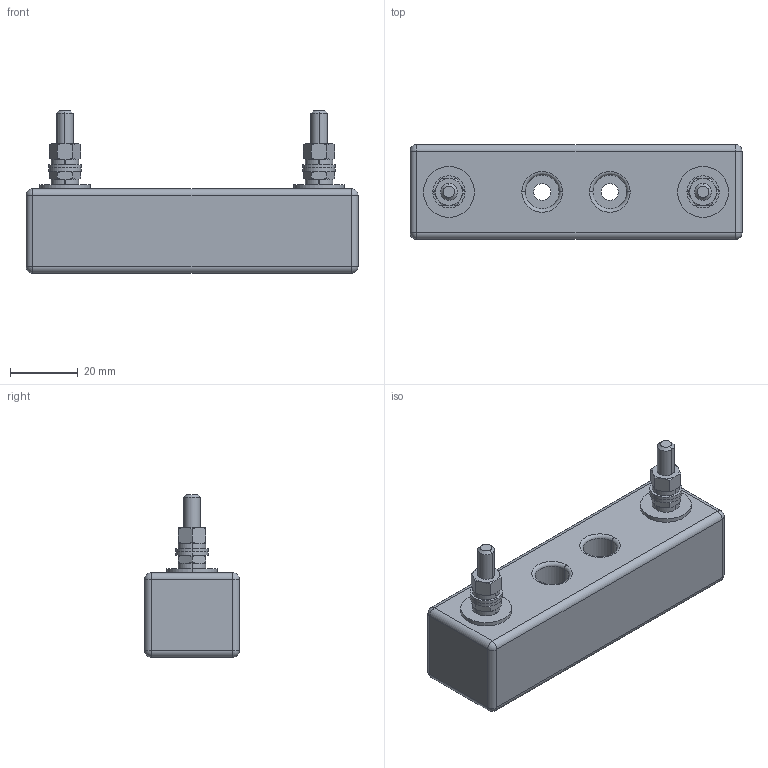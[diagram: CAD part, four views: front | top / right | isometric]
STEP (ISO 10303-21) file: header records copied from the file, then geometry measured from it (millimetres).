
FILE_DESCRIPTION (( 'STEP AP214' ), '1' );
FILE_NAME ('SP40K06.step', '2011-10-26T12:01:29', ( 'Radek Veselý' ), ( 'Siemens and Partners' ), 'SwSTEP 2.0', 'SolidWorks 2006303', '' );
FILE_SCHEMA (( 'AUTOMOTIVE_DESIGN' ));
Length unit declared in the file: millimetre
Products named in the file (1): SP40K06
Bounding box: 98 x 28 x 48 mm (x, y, z)
Volume: 64276.7 mm3; surface area: 17826.4 mm2
Topology: 17 solids, 17 shells, 324 faces, 722 edges, 430 vertices
Faces by surface type: plane 104, cylinder 102, cone 68, torus 42, sphere 8
Entity records: 12977 total; most frequent: CARTESIAN_POINT 2145, DIRECTION 1528, ORIENTED_EDGE 1428, EDGE_CURVE 714, AXIS2_PLACEMENT_3D 645, VERTEX_POINT 430, EDGE_LOOP 358, UNCERTAINTY_MEASURE_WITH_UNIT 342
